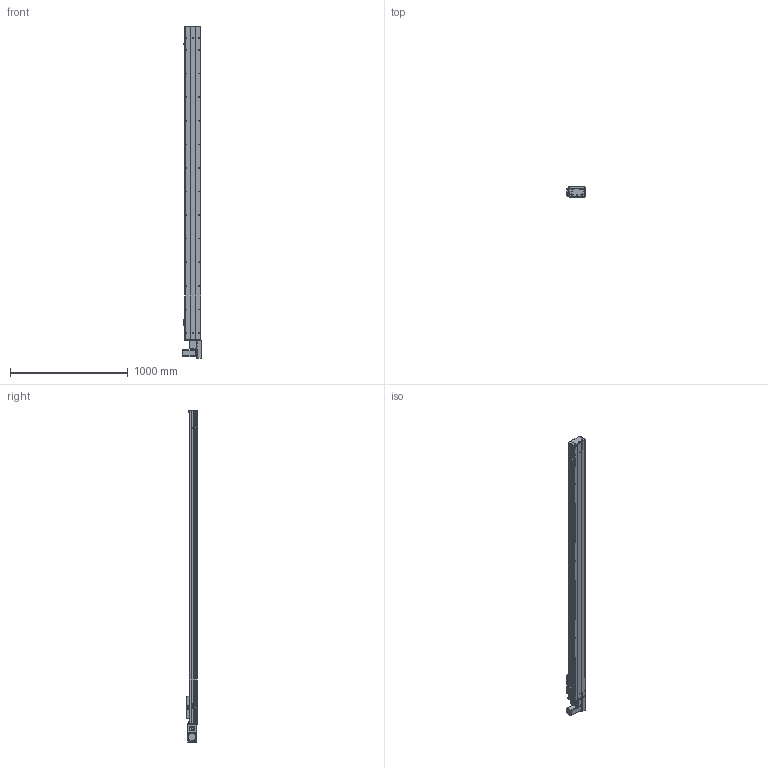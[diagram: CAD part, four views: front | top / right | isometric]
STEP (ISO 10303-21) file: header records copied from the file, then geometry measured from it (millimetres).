
FILE_DESCRIPTION (( 'STEP AP203' ), '1' );
FILE_NAME ('Y135CB-D90-S2350-BL-P400W.STEP', '2020-02-18T01:37:04', ( '微软用户' ), ( '微软中国' ), 'SwSTEP 2.0', 'SolidWorks 2017', '' );
FILE_SCHEMA (( 'CONFIG_CONTROL_DESIGN' ));
Length unit declared in the file: millimetre
Products named in the file (18): Y10B--々湍喘謫眊--666; 5CB --掛极耜裔啣-; Y10B-耜蚾蟀諉啣----; C-詩湍揤踡え-陔; Y俋欶BR----; 135CB--詩湍-CE; 0B-埴倛裔啣; Y100-135俋离換覜ん--; 0B-源倛裔啣; Y135C-陔俋离換覜結え-; Y135CB-耜裔; 5C--俋欶; 135CB---遴掛极.-; C-雄赽釱--; 0B-萇儂楊擘啣; 35CB---喘謫眊楊擘啣; Y135CB-D90-S2350-BL-P400W; san松下电机400不带刹车----
Assembly tree (21 placements, depth 2):
  Y135CB-D90-S2350-BL-P400W
    Y135CB-耜裔
    135CB---遴掛极.-
    35CB---喘謫眊楊擘啣
    Y10B--々湍喘謫眊--666
    Y10B-耜蚾蟀諉啣----
    Y俋欶BR----
    0B-埴倛裔啣
    0B-源倛裔啣
    0B-萇儂楊擘啣
    san松下电机400不带刹车----
    5CB --掛极耜裔啣-  x2
    C-詩湍揤踡え-陔  x2
    135CB--詩湍-CE
    Y100-135俋离換覜ん--  x3
    Y135C-陔俋离換覜結え-
    5C--俋欶
    C-雄赽釱--
Bounding box: 157.5 x 91 x 2814.5 mm (x, y, z)
Volume: 7893075.6 mm3; surface area: 3124756.4 mm2
Topology: 21 solids, 21 shells, 973 faces, 2653 edges, 1758 vertices
Faces by surface type: cylinder 499, plane 458, cone 16
Entity records: 30755 total; most frequent: CARTESIAN_POINT 5120, DIRECTION 5109, ORIENTED_EDGE 4782, EDGE_CURVE 2391, AXIS2_PLACEMENT_3D 1871, VERTEX_POINT 1586, LINE 1367, VECTOR 1367
